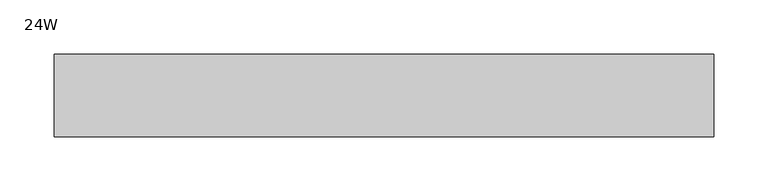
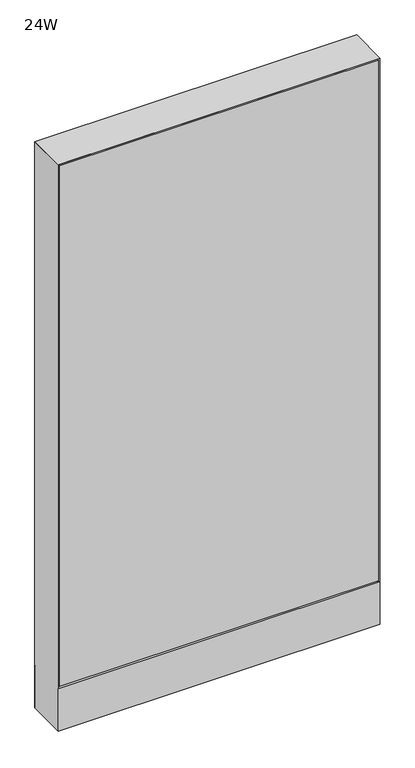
"""IFC4 building model written with IfcOpenShell, lengths in millimetres: furniture geometry, Steelcase - Montage - Frame - 45H - Enhanced Monolithic - Base Cavity : 24W."""

from ifc_helpers import new_model, si_unit, point, frame, frame_2d, origin, origin_with_axes, place, context, project, spatial, polyline, circle_curve, trimmed, segment, composite_curve, outline, extrude, faceted_brep, source, transform, mapped, element, save


def furniture_24w_086fed48(model_context):
    return source(origin(), model_context, "Body", "SolidModel", [
        extrude(outline(polyline([(3.175, 31.7500194), (3.175, 38.1000194), (606.425, 38.1000194), (606.425, 31.7500194), (3.175, 31.7500194)])), frame((0.0, 0.0, 92.075), z_axis=(0.0, 0.0, 1.0), x_axis=(1.0, 0.0, 0.0)), (0.0, 0.0, 1.0), 1041.4),
        extrude(outline(polyline([(3.175, -31.7500194), (606.425, -31.7500194), (606.425, -38.1000194), (3.175, -38.1000194), (3.175, -31.7500194)])), frame((0.0, 0.0, 92.075), z_axis=(0.0, 0.0, 1.0), x_axis=(1.0, 0.0, 0.0)), (0.0, 0.0, 1.0), 1041.4),
        extrude(outline(polyline([(6.350003, -31.7499985), (603.249997, -31.7499985), (609.6, -38.1000015), (0.0, -38.1000015), (6.350003, -31.7499985)])), frame((0.0, 0.0, 4.064), z_axis=(0.0, 0.0, 1.0), x_axis=(1.0, 0.0, 0.0)), (0.0, 0.0, 1.0), 84.835997),
        extrude(outline(polyline([(6.3500002, 31.7500017), (0.0, 38.1000015), (609.6, 38.1000015), (603.2500002, 31.7500017), (6.3500002, 31.7500017)])), frame((0.0, 0.0, 4.064), z_axis=(0.0, 0.0, 1.0), x_axis=(1.0, 0.0, 0.0)), (0.0, 0.0, 1.0), 84.835997),
        faceted_brep([(609.6, -38.1000015, 1136.65), (0.0, -38.1000015, 1136.65), (6.3500484, -31.749953, 1130.2999516), (603.2499516, -31.749953, 1130.2999516), (6.3500484, 31.749953, 1130.2999516), (603.2499516, 31.749953, 1130.2999516), (0.0, 38.1000015, 1136.65), (609.6, 38.1000015, 1136.65)], [[[0, 1, 2, 3]], [[3, 2, 4, 5]], [[6, 7, 5, 4]], [[1, 0, 7, 6]], [[2, 1, 6, 4]], [[0, 3, 5, 7]]]),
        extrude(outline(composite_curve([segment(trimmed(circle_curve(frame_2d((44.45, 0.0)), 15.24), [point((29.21, 0.0))], [point((59.69, 0.0))], False, "CARTESIAN"), True, "CONTINUOUS"), segment(trimmed(circle_curve(frame_2d((44.45, 0.0)), 15.24), [point((59.69, 0.0))], [point((29.21, 0.0))], False, "CARTESIAN"), True, "CONTINUOUS")], self_intersect=False)), origin_with_axes(), (0.0, 0.0, 1.0), 4.064),
        extrude(outline(composite_curve([segment(trimmed(circle_curve(frame_2d((565.15, 0.0)), 15.24), [point((549.91, 0.0))], [point((580.39, 0.0))], False, "CARTESIAN"), True, "CONTINUOUS"), segment(trimmed(circle_curve(frame_2d((565.15, 0.0)), 15.24), [point((580.39, 0.0))], [point((549.91, 0.0))], False, "CARTESIAN"), True, "CONTINUOUS")], self_intersect=False)), origin_with_axes(), (0.0, 0.0, 1.0), 4.064),
        faceted_brep([(609.6, -38.1000106, 4.064), (609.6, 38.1000015, 4.064), (609.6, 38.1000015, 1136.65), (609.6, -38.1000106, 1136.6499637), (0.0, 38.1000015, 4.064), (0.0, -38.1000015, 4.064), (0.0, -38.1000015, 1136.65), (0.0, 38.1000015, 1136.65), (603.2499879, 31.7500017, 600.202), (6.35, 31.7500017, 600.202), (6.3499998, 31.7500017, 612.902), (603.2499879, 31.7500017, 612.902), (6.35, -31.7499985, 612.902), (603.2499879, -31.7499985, 612.902), (6.350003, -31.7499985, 600.202), (603.2499879, -31.7499985, 600.202), (6.35, 31.7500015, 4.064), (6.35, -31.7500015, 4.064), (603.2499879, 31.7499894, 4.064), (603.2499879, -31.7499985, 4.064), (6.35, 31.7500015, 1130.3), (6.35, -31.7500015, 1130.3), (603.2499879, -31.7499985, 1130.2999516), (603.2499879, 31.7499895, 1130.2999516)], [[[0, 1, 2, 3]], [[4, 5, 6, 7]], [[8, 9, 10, 11]], [[11, 10, 12, 13]], [[13, 12, 14, 15]], [[9, 8, 15, 14]], [[16, 17, 5, 4]], [[18, 1, 0, 19]], [[16, 4, 7, 20, 10, 9]], [[5, 17, 14, 12, 21, 6]], [[17, 16, 9, 14]], [[12, 10, 20, 21]], [[18, 19, 15, 8]], [[11, 13, 22, 23]], [[19, 0, 3, 22, 13, 15]], [[1, 18, 8, 11, 23, 2]], [[7, 6, 21, 20]], [[3, 2, 23, 22]]]),
    ])


if __name__ == "__main__":
    model = new_model("IFC4")
    model_context = context("Model", 3, world=origin())
    ifc_project = project(units=[si_unit("LENGTHUNIT", "METRE", prefix="MILLI")], contexts=[model_context])
    site = spatial("IfcSite", under=ifc_project)
    building = spatial("IfcBuilding", under=site)
    placement = place(None, origin())
    furniture_24w_shape = furniture_24w_086fed48(model_context)
    element("IfcFurniture", 1, ObjectType="Steelcase - Montage - Frame - 45H - Enhanced Monolithic - Base Cavity : 24W", at=placement, inside=building, context=model_context, shape_type="MappedRepresentation", body=[
        mapped(furniture_24w_shape, transform((0.0, 0.0, 0.0), x_axis=(1.0, 0.0, 0.0), y_axis=(0.0, 1.0, 0.0), z_axis=(0.0, 0.0, 1.0))),
    ])
    save(model, "model.ifc")
